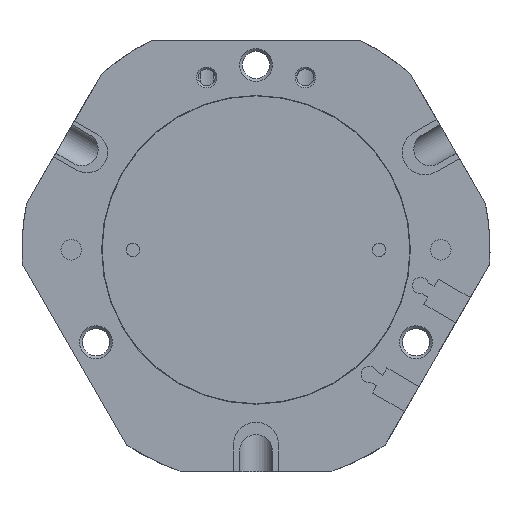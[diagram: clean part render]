
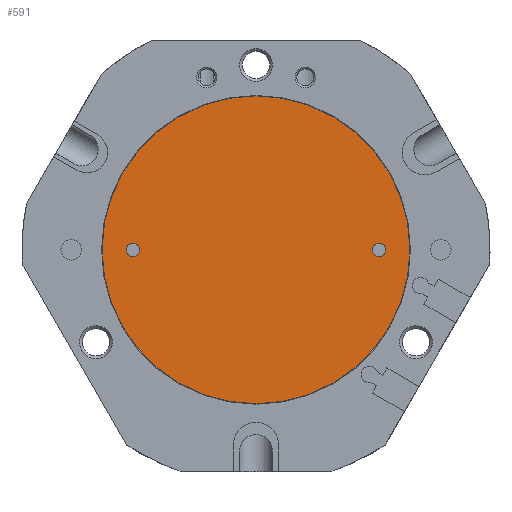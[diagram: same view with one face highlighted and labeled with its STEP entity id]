
A CAD part, front view. The second image highlights one B-rep face of the part: STEP entity #591.
In plain terms, the highlighted planar face has unit normal (0, -1, 0).
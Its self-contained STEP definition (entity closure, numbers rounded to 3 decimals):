
#591 = ADVANCED_FACE( '', ( #1345, #1346, #1347 ), #1348, .F. );
#1345 = FACE_BOUND( '', #2311, .T. );
#1346 = FACE_OUTER_BOUND( '', #2312, .T. );
#1347 = FACE_BOUND( '', #2313, .T. );
#1348 = PLANE( '', #2314 );
#2311 = EDGE_LOOP( '', ( #3861 ) );
#2312 = EDGE_LOOP( '', ( #3862 ) );
#2313 = EDGE_LOOP( '', ( #3863 ) );
#2314 = AXIS2_PLACEMENT_3D( '', #3864, #3865, #3866 );
#3861 = ORIENTED_EDGE( '', *, *, #5531, .F. );
#3862 = ORIENTED_EDGE( '', *, *, #5839, .F. );
#3863 = ORIENTED_EDGE( '', *, *, #5840, .F. );
#3864 = CARTESIAN_POINT( '', ( 0., 0., 0. ) );
#3865 = DIRECTION( '', ( 0., 1., 0. ) );
#3866 = DIRECTION( '', ( 0., 0., 1. ) );
#5531 = EDGE_CURVE( '', #6631, #6631, #6632, .T. );
#5839 = EDGE_CURVE( '', #7114, #7114, #7115, .T. );
#5840 = EDGE_CURVE( '', #7116, #7116, #7117, .T. );
#6631 = VERTEX_POINT( '', #8143 );
#6632 = CIRCLE( '', #8144, 1.6 );
#7114 = VERTEX_POINT( '', #8801 );
#7115 = CIRCLE( '', #8802, 37.5 );
#7116 = VERTEX_POINT( '', #8803 );
#7117 = CIRCLE( '', #8804, 1.6 );
#8143 = CARTESIAN_POINT( '', ( 30., 0., -1.6 ) );
#8144 = AXIS2_PLACEMENT_3D( '', #9892, #9893, #9894 );
#8801 = CARTESIAN_POINT( '', ( 37.5, 0., 0. ) );
#8802 = AXIS2_PLACEMENT_3D( '', #10258, #10259, #10260 );
#8803 = CARTESIAN_POINT( '', ( -30., 0., -1.6 ) );
#8804 = AXIS2_PLACEMENT_3D( '', #10261, #10262, #10263 );
#9892 = CARTESIAN_POINT( '', ( 30., 0., 0. ) );
#9893 = DIRECTION( '', ( 0., -1., 0. ) );
#9894 = DIRECTION( '', ( 0., 0., -1. ) );
#10258 = CARTESIAN_POINT( '', ( 0., 0., 0. ) );
#10259 = DIRECTION( '', ( 0., 1., 0. ) );
#10260 = DIRECTION( '', ( 1., 0., 0. ) );
#10261 = CARTESIAN_POINT( '', ( -30., 0., 0. ) );
#10262 = DIRECTION( '', ( 0., -1., 0. ) );
#10263 = DIRECTION( '', ( 0., 0., -1. ) );
